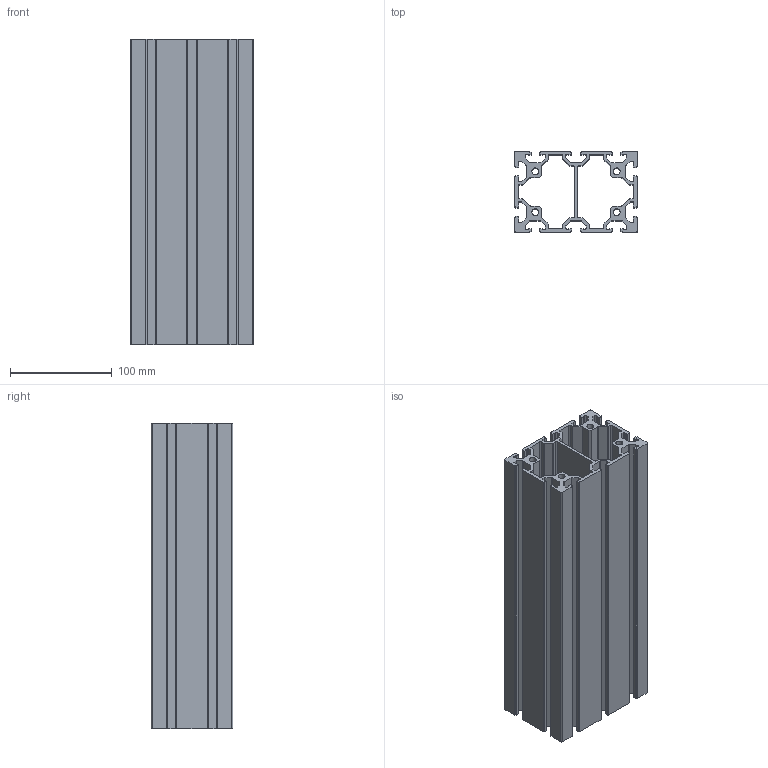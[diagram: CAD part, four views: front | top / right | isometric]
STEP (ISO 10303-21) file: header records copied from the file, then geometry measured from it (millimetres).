
FILE_DESCRIPTION (( 'STEP AP203' ), '1' );
FILE_NAME ('CE-80120-8.STEP', '2016-07-28T02:06:39', ( '' ), ( '' ), 'SwSTEP 2.0', 'SolidWorks 2013', '' );
FILE_SCHEMA (( 'CONFIG_CONTROL_DESIGN' ));
Length unit declared in the file: millimetre
Products named in the file (1): CE-80120-8
Bounding box: 120 x 80 x 300 mm (x, y, z)
Volume: 782675.5 mm3; surface area: 413021.2 mm2
Topology: 1 solids, 1 shells, 330 faces, 984 edges, 656 vertices
Faces by surface type: plane 234, cylinder 96
Entity records: 11141 total; most frequent: CARTESIAN_POINT 1971, ORIENTED_EDGE 1968, DIRECTION 1838, EDGE_CURVE 984, VECTOR 792, LINE 792, VERTEX_POINT 656, AXIS2_PLACEMENT_3D 523
